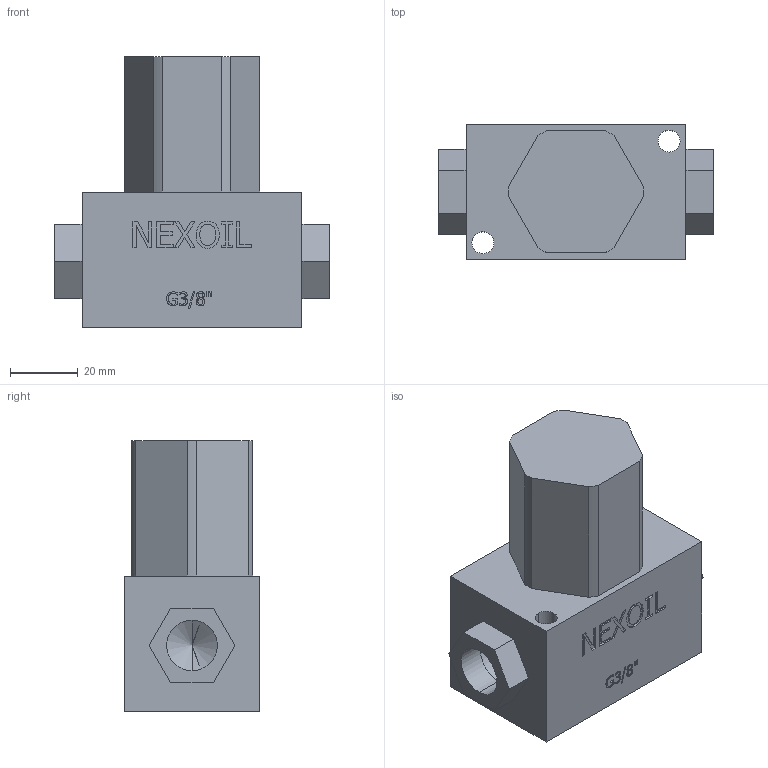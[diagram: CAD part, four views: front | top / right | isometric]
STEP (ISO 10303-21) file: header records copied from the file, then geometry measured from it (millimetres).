
FILE_DESCRIPTION((''),'2;1');
FILE_NAME('7076023_28_3_8.stp','2017-05-30T10:09:17',(''),(''),'Mechanical Desktop 2008','Mechanical Desktop 2008',', , ');
FILE_SCHEMA(('AUTOMOTIVE_DESIGN { 1 2 10303 214 1 1 1 1 }'));
Length unit declared in the file: millimetre
Products named in the file (2): 7076023_28_3_8; ~PART1
Assembly tree (1 placements, depth 2):
  7076023_28_3_8
    ~PART1
Bounding box: 81 x 40 x 80 mm (x, y, z)
Volume: 138295.3 mm3; surface area: 24834 mm2
Topology: 1 solids, 1 shells, 279 faces, 767 edges, 508 vertices
Faces by surface type: bspline 132, plane 125, cylinder 18, cone 4
Entity records: 9536 total; most frequent: CARTESIAN_POINT 3268, ORIENTED_EDGE 1526, DIRECTION 833, EDGE_CURVE 763, VERTEX_POINT 508, VECTOR 463, LINE 463, EDGE_LOOP 305
